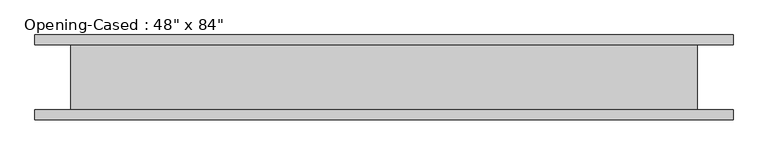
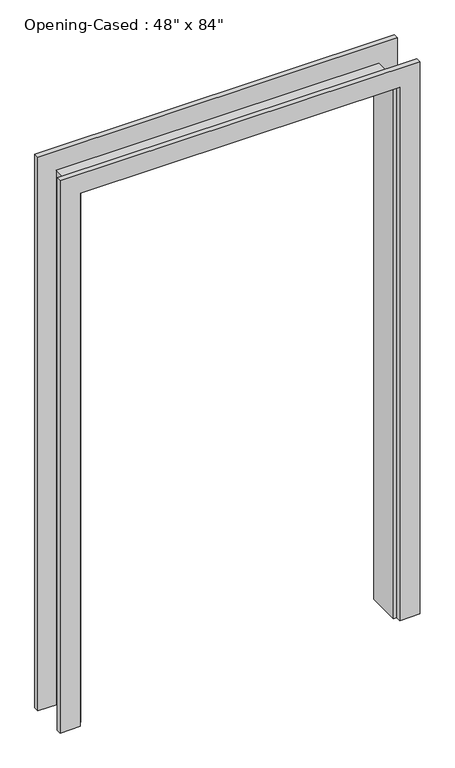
"""IFC4 building model written with IfcOpenShell, lengths in millimetres: proxy geometry."""

from ifc_helpers import new_model, si_unit, frame, origin, place, context, project, spatial, polyline, outline, extrude, faceted_brep, source, transform, mapped, element, save


def proxy_f44482cc(model_context):
    return source(origin(), model_context, "Body", "SolidModel", [
        extrude(outline(polyline([(0.0, -611.4386567), (2127.25, -611.4386567), (2127.25, 595.0613433), (0.0, 595.0613433), (0.0, 671.2613433), (2203.45, 671.2613433), (2203.45, -687.6386567), (0.0, -687.6386567), (0.0, -611.4386567)])), frame((0.0, -82.55, 0.0), z_axis=(0.0, 1.0, 0.0), x_axis=(0.0, 0.0, 1.0)), (0.0, 0.0, 1.0), 19.05),
        extrude(outline(polyline([(0.0, 671.2613433), (2209.8, 671.2613433), (2209.8, -687.6386567), (0.0, -687.6386567), (0.0, -611.4386567), (2127.25, -611.4386567), (2127.25, 595.0613433), (0.0, 595.0613433), (0.0, 671.2613433)])), frame((0.0, 63.5, 0.0), z_axis=(0.0, 1.0, 0.0), x_axis=(0.0, 0.0, 1.0)), (0.0, 0.0, 1.0), 19.05),
        faceted_brep([(582.3613433, 63.5, 0.0), (601.4113433, 63.5, 0.0), (601.4113433, -63.5, 0.0), (582.3613433, -63.5, 0.0), (582.3613433, 63.5, 2114.55), (601.4113433, 63.5, 2133.6), (601.4113433, -63.5, 2133.6), (582.3613433, -63.5, 2114.55), (-598.7386567, 63.5, 2114.55), (-617.7886567, 63.5, 2133.6), (-617.7886567, -63.5, 2133.6), (-598.7386567, -63.5, 2114.55), (-598.7386567, 63.5, 0.0), (-598.7386567, -63.5, 0.0), (-617.7886567, -63.5, 0.0), (-617.7886567, 63.5, 0.0)], [[[0, 1, 2, 3]], [[1, 0, 4, 5]], [[2, 1, 5, 6]], [[3, 2, 6, 7]], [[0, 3, 7, 4]], [[5, 4, 8, 9]], [[6, 5, 9, 10]], [[7, 6, 10, 11]], [[4, 7, 11, 8]], [[12, 13, 14, 15]], [[9, 8, 12, 15]], [[10, 9, 15, 14]], [[11, 10, 14, 13]], [[8, 11, 13, 12]]]),
    ])


if __name__ == "__main__":
    model = new_model("IFC4")
    model_context = context("Model", 3, world=origin())
    ifc_project = project(units=[si_unit("LENGTHUNIT", "METRE", prefix="MILLI")], contexts=[model_context])
    site = spatial("IfcSite", under=ifc_project)
    building = spatial("IfcBuilding", under=site)
    placement = place(None, origin())
    proxy_shape = proxy_f44482cc(model_context)
    element("IfcBuildingElementProxy", 1, Name="Opening-Cased : 48\" x 84\"", ObjectType="Opening-Cased : 48\" x 84\"", at=placement, inside=building, context=model_context, shape_type="MappedRepresentation", body=[
        mapped(proxy_shape, transform((0.0, 0.0, 0.0), x_axis=(1.0, 0.0, 0.0), y_axis=(0.0, 1.0, 0.0), z_axis=(0.0, 0.0, 1.0))),
    ])
    save(model, "model.ifc")
